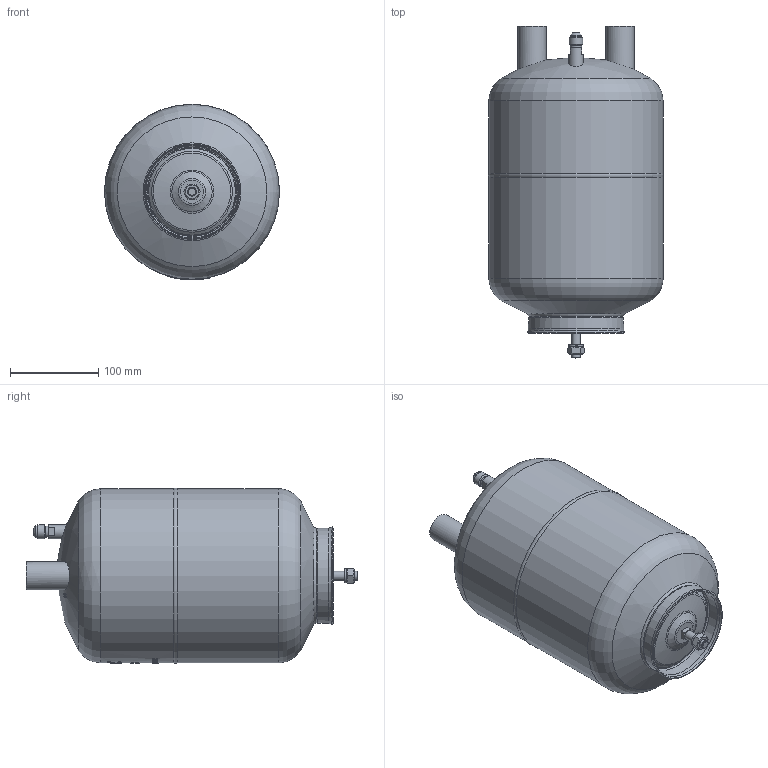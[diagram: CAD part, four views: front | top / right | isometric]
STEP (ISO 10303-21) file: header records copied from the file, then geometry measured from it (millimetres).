
FILE_DESCRIPTION(/* description */ (''),/* implementation_level */ '2;1');
FILE_NAME(/* name */ 'P:\OS\OS-28H\OS-28H.stp',/* time_stamp */ '2017-10-04T08:02:08+02:00',/* author */ ('neufeld'),/* organization */ (''),/* preprocessor_version */ 'ST-DEVELOPER v16.1',/* originating_system */ 'Autodesk Inventor 2016',/* authorisation */ '');
FILE_SCHEMA (('AUTOMOTIVE_DESIGN { 1 0 10303 214 3 1 1 }'));
Length unit declared in the file: millimetre
Products named in the file (2): OS-28H; OS-28H_1
Assembly tree (1 placements, depth 2):
  OS-28H_1
    OS-28H
Bounding box: 199 x 377.2 x 199.5 mm (x, y, z)
Volume: 8317183.7 mm3; surface area: 242564.8 mm2
Topology: 1 solids, 1 shells, 1042 faces, 2786 edges, 1846 vertices
Faces by surface type: plane 529, bspline 377, cylinder 96, cone 19, torus 12, sphere 9
Full cylindrical faces by diameter (mm): 7.2 x1, 10 x2, 12.9 x1, 13.5 x1, 15.7 x1, 16 x1, 28.7 x2, 32 x2, 198 x2
Entity records: 40744 total; most frequent: CARTESIAN_POINT 16811, ORIENTED_EDGE 5482, DIRECTION 4028, EDGE_CURVE 2741, VERTEX_POINT 1841, AXIS2_PLACEMENT_3D 1396, LINE 1236, VECTOR 1236
